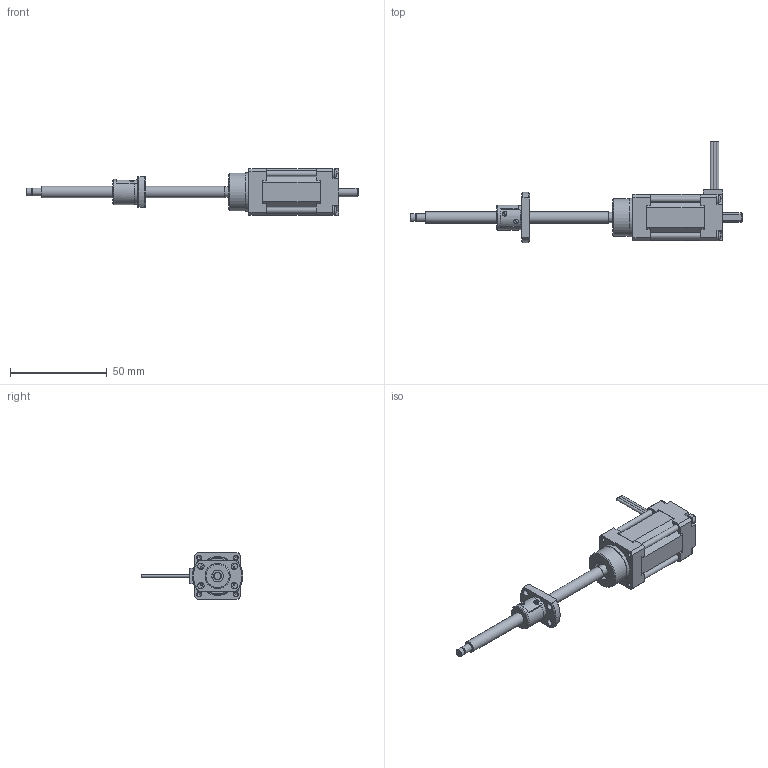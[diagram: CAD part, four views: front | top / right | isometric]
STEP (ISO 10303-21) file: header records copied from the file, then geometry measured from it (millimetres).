
FILE_DESCRIPTION( ( 'STEP AP214' ), ' ' );
FILE_NAME( 'p:/temp/worker_2/3216_2592/app_89_12017090514283114204249260eae72_000000_00_00_000000/format_0/TMB0601(37).stp', '2017-09-05T12:28:31', ( '' ), ( '' ), ' ', 'PARTsolutions', ' ' );
FILE_SCHEMA( ( 'AUTOMOTIVE_DESIGN { 1 0 10303 214 1 1 1 1 }' ) );
Length unit declared in the file: millimetre
Products named in the file (3): TMB0601(37); _TMB0601 (0)motor; _TMB0601 (37)nut
Assembly tree (2 placements, depth 2):
  TMB0601(37)
    _TMB0601 (0)motor
    _TMB0601 (37)nut
Bounding box: 172 x 52.5 x 24 mm (x, y, z)
Volume: 33479.9 mm3; surface area: 11608 mm2
Topology: 2 solids, 2 shells, 239 faces, 635 edges, 417 vertices
Faces by surface type: plane 163, cylinder 56, cone 16, bspline 4
Full cylindrical faces by diameter (mm): 1.5 x3, 2.113 x4, 2.5 x2, 3.4 x4, 3.7 x1, 4 x2, 5 x4, 5.3 x1, 6 x2, 10 x1, 12.5 x1, 13 x1, 19.5 x1, 20 x1
Entity records: 9315 total; most frequent: CARTESIAN_POINT 1687, ORIENTED_EDGE 1146, DIRECTION 1117, EDGE_CURVE 573, VERTEX_POINT 402, LINE 385, VECTOR 385, AXIS2_PLACEMENT_3D 366
